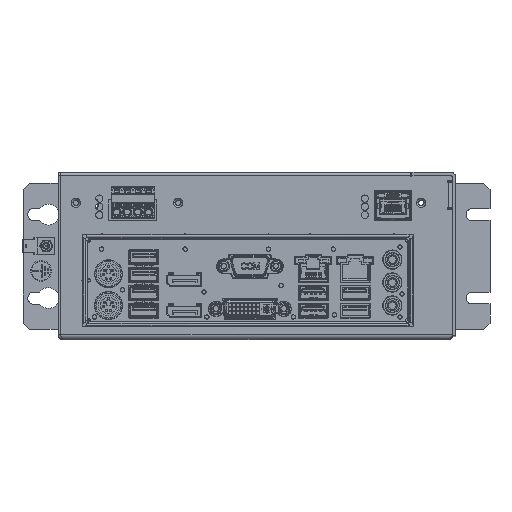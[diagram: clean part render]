
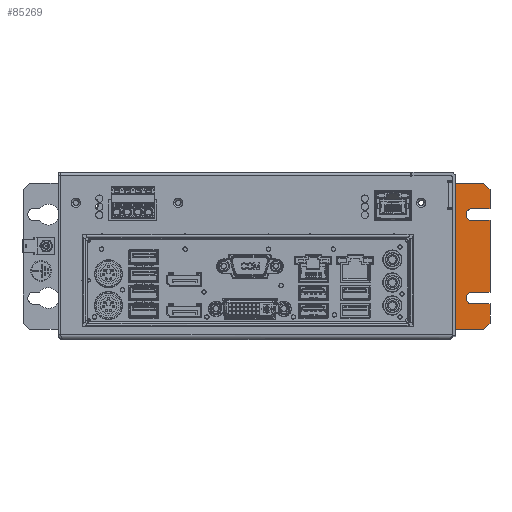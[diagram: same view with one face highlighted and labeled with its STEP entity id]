
A CAD part, top view. The second image highlights one B-rep face of the part: STEP entity #85269.
In plain terms, the highlighted planar face has unit normal (0, 0, 1) as drawn and (0, 0, -1) by its records, which use the part's own axes.
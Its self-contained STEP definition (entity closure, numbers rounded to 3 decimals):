
#1855 = CIRCLE ( 'NONE', #217967, 2.75 ) ;
#6509 = EDGE_CURVE ( 'NONE', #58605, #25625, #183485, .T. ) ;
#7474 = DIRECTION ( 'NONE',  ( 0., -1., 0. ) ) ;
#14514 = LINE ( 'NONE', #128709, #175871 ) ;
#14647 = EDGE_CURVE ( 'NONE', #23895, #226131, #182512, .T. ) ;
#15005 = CARTESIAN_POINT ( 'NONE',  ( 12.25, 0., 0. ) ) ;
#15141 = AXIS2_PLACEMENT_3D ( 'NONE', #32166, #90839, #226981 ) ;
#16215 = LINE ( 'NONE', #75208, #61845 ) ;
#17373 = VERTEX_POINT ( 'NONE', #61111 ) ;
#23241 = EDGE_LOOP ( 'NONE', ( #61537, #207327, #226794, #250914, #237651, #228288, #234697, #128878, #194594, #48348, #160374, #251406, #77786, #42815 ) ) ;
#23895 = VERTEX_POINT ( 'NONE', #247680 ) ;
#25625 = VERTEX_POINT ( 'NONE', #218150 ) ;
#28277 = VECTOR ( 'NONE', #90994, 1000. ) ;
#31785 = VECTOR ( 'NONE', #102831, 1000. ) ;
#32166 = CARTESIAN_POINT ( 'NONE',  ( 0., 18.3, 0. ) ) ;
#32338 = CARTESIAN_POINT ( 'NONE',  ( 70., 0., 0. ) ) ;
#36366 = EDGE_CURVE ( 'NONE', #226131, #163937, #83487, .T. ) ;
#40773 = EDGE_CURVE ( 'NONE', #25625, #129220, #229441, .T. ) ;
#42815 = ORIENTED_EDGE ( 'NONE', *, *, #107045, .F. ) ;
#48017 = CARTESIAN_POINT ( 'NONE',  ( 67., 0., 0. ) ) ;
#48348 = ORIENTED_EDGE ( 'NONE', *, *, #175073, .F. ) ;
#50095 = CARTESIAN_POINT ( 'NONE',  ( 57.75, 8.7, 0. ) ) ;
#58605 = VERTEX_POINT ( 'NONE', #208041 ) ;
#59778 = CARTESIAN_POINT ( 'NONE',  ( 52.25, 0., 0. ) ) ;
#61111 = CARTESIAN_POINT ( 'NONE',  ( 0., 3., 0. ) ) ;
#61537 = ORIENTED_EDGE ( 'NONE', *, *, #177456, .T. ) ;
#61845 = VECTOR ( 'NONE', #209660, 1000. ) ;
#62707 = VECTOR ( 'NONE', #233927, 1000. ) ;
#63396 = DIRECTION ( 'NONE',  ( 1., 0., 0. ) ) ;
#63674 = LINE ( 'NONE', #59778, #212885 ) ;
#75208 = CARTESIAN_POINT ( 'NONE',  ( -7.65, 10.65, 0. ) ) ;
#77786 = ORIENTED_EDGE ( 'NONE', *, *, #108702, .T. ) ;
#78992 = LINE ( 'NONE', #219127, #176341 ) ;
#79380 = DIRECTION ( 'NONE',  ( 0., -1., 0. ) ) ;
#83487 = LINE ( 'NONE', #238996, #31785 ) ;
#84272 = EDGE_CURVE ( 'NONE', #206756, #17373, #16215, .T. ) ;
#85269 = ADVANCED_FACE ( 'NONE', ( #134106 ), #226164, .T. ) ;
#88507 = EDGE_CURVE ( 'NONE', #58605, #188649, #116527, .T. ) ;
#90839 = DIRECTION ( 'NONE',  ( 0., 0., -1. ) ) ;
#90994 = DIRECTION ( 'NONE',  ( 0., 1., 0. ) ) ;
#92440 = AXIS2_PLACEMENT_3D ( 'NONE', #229681, #113100, #249228 ) ;
#97090 = EDGE_CURVE ( 'NONE', #239811, #147324, #124467, .T. ) ;
#101769 = VECTOR ( 'NONE', #235037, 1000. ) ;
#102831 = DIRECTION ( 'NONE',  ( 0., -1., 0. ) ) ;
#107045 = EDGE_CURVE ( 'NONE', #111921, #118647, #14514, .T. ) ;
#107874 = LINE ( 'NONE', #215433, #101769 ) ;
#108702 = EDGE_CURVE ( 'NONE', #202122, #118647, #63674, .T. ) ;
#108726 = CARTESIAN_POINT ( 'NONE',  ( 55., 8.7, 0. ) ) ;
#111921 = VERTEX_POINT ( 'NONE', #146350 ) ;
#113100 = DIRECTION ( 'NONE',  ( 0., 0., 1. ) ) ;
#114475 = LINE ( 'NONE', #214358, #62707 ) ;
#114811 = EDGE_CURVE ( 'NONE', #206756, #163937, #78992, .T. ) ;
#115259 = LINE ( 'NONE', #123957, #154825 ) ;
#116527 = LINE ( 'NONE', #192057, #213943 ) ;
#118647 = VERTEX_POINT ( 'NONE', #196020 ) ;
#123957 = CARTESIAN_POINT ( 'NONE',  ( 0., 0., 0. ) ) ;
#124467 = LINE ( 'NONE', #50095, #130584 ) ;
#126978 = CARTESIAN_POINT ( 'NONE',  ( 52.25, 8.7, 0. ) ) ;
#128309 = DIRECTION ( 'NONE',  ( 1., 0., 0. ) ) ;
#128709 = CARTESIAN_POINT ( 'NONE',  ( 0., 0., 0. ) ) ;
#128878 = ORIENTED_EDGE ( 'NONE', *, *, #6509, .F. ) ;
#129220 = VERTEX_POINT ( 'NONE', #134436 ) ;
#129531 = DIRECTION ( 'NONE',  ( 1., 0., 0. ) ) ;
#129666 = EDGE_CURVE ( 'NONE', #147324, #202122, #1855, .T. ) ;
#130584 = VECTOR ( 'NONE', #186154, 1000. ) ;
#132113 = CARTESIAN_POINT ( 'NONE',  ( 12.25, 8.7, 0. ) ) ;
#134106 = FACE_OUTER_BOUND ( 'NONE', #23241, .T. ) ;
#134436 = CARTESIAN_POINT ( 'NONE',  ( 0., 18.153, 0. ) ) ;
#146350 = CARTESIAN_POINT ( 'NONE',  ( 17.75, 0., 0. ) ) ;
#147324 = VERTEX_POINT ( 'NONE', #202079 ) ;
#154825 = VECTOR ( 'NONE', #7474, 1000. ) ;
#160374 = ORIENTED_EDGE ( 'NONE', *, *, #97090, .T. ) ;
#163670 = EDGE_CURVE ( 'NONE', #129220, #17373, #115259, .T. ) ;
#163937 = VERTEX_POINT ( 'NONE', #15005 ) ;
#175073 = EDGE_CURVE ( 'NONE', #239811, #188649, #107874, .T. ) ;
#175871 = VECTOR ( 'NONE', #129531, 1000. ) ;
#176341 = VECTOR ( 'NONE', #63396, 1000. ) ;
#176935 = CARTESIAN_POINT ( 'NONE',  ( 70., 18.153, 0. ) ) ;
#177456 = EDGE_CURVE ( 'NONE', #111921, #23895, #114475, .T. ) ;
#182512 = CIRCLE ( 'NONE', #92440, 2.75 ) ;
#183485 = LINE ( 'NONE', #32338, #28277 ) ;
#186154 = DIRECTION ( 'NONE',  ( 0., 1., 0. ) ) ;
#188649 = VERTEX_POINT ( 'NONE', #48017 ) ;
#192057 = CARTESIAN_POINT ( 'NONE',  ( 42.65, -24.35, 0. ) ) ;
#194594 = ORIENTED_EDGE ( 'NONE', *, *, #88507, .T. ) ;
#196020 = CARTESIAN_POINT ( 'NONE',  ( 52.25, 0., 0. ) ) ;
#196518 = DIRECTION ( 'NONE',  ( -1., 0., 0. ) ) ;
#199199 = CARTESIAN_POINT ( 'NONE',  ( 3., 0., 0. ) ) ;
#202079 = CARTESIAN_POINT ( 'NONE',  ( 57.75, 8.7, 0. ) ) ;
#202122 = VERTEX_POINT ( 'NONE', #126978 ) ;
#206756 = VERTEX_POINT ( 'NONE', #199199 ) ;
#207327 = ORIENTED_EDGE ( 'NONE', *, *, #14647, .T. ) ;
#208041 = CARTESIAN_POINT ( 'NONE',  ( 70., 3., 0. ) ) ;
#209660 = DIRECTION ( 'NONE',  ( -0.707, 0.707, 0. ) ) ;
#211664 = DIRECTION ( 'NONE',  ( -0.707, -0.707, 0. ) ) ;
#212885 = VECTOR ( 'NONE', #79380, 1000. ) ;
#213943 = VECTOR ( 'NONE', #211664, 1000. ) ;
#214358 = CARTESIAN_POINT ( 'NONE',  ( 17.75, 8.7, 0. ) ) ;
#215433 = CARTESIAN_POINT ( 'NONE',  ( 0., 0., 0. ) ) ;
#217967 = AXIS2_PLACEMENT_3D ( 'NONE', #108726, #244925, #128309 ) ;
#218150 = CARTESIAN_POINT ( 'NONE',  ( 70., 18.153, 0. ) ) ;
#219127 = CARTESIAN_POINT ( 'NONE',  ( 0., 0., 0. ) ) ;
#223314 = VECTOR ( 'NONE', #196518, 1000. ) ;
#226131 = VERTEX_POINT ( 'NONE', #132113 ) ;
#226164 = PLANE ( 'NONE',  #15141 ) ;
#226634 = CARTESIAN_POINT ( 'NONE',  ( 57.75, 0., 0. ) ) ;
#226794 = ORIENTED_EDGE ( 'NONE', *, *, #36366, .T. ) ;
#226981 = DIRECTION ( 'NONE',  ( -1., 0., 0. ) ) ;
#228288 = ORIENTED_EDGE ( 'NONE', *, *, #163670, .F. ) ;
#229441 = LINE ( 'NONE', #176935, #223314 ) ;
#229681 = CARTESIAN_POINT ( 'NONE',  ( 15., 8.7, 0. ) ) ;
#233927 = DIRECTION ( 'NONE',  ( 0., 1., 0. ) ) ;
#234697 = ORIENTED_EDGE ( 'NONE', *, *, #40773, .F. ) ;
#235037 = DIRECTION ( 'NONE',  ( 1., 0., 0. ) ) ;
#237651 = ORIENTED_EDGE ( 'NONE', *, *, #84272, .T. ) ;
#238996 = CARTESIAN_POINT ( 'NONE',  ( 12.25, 0., 0. ) ) ;
#239811 = VERTEX_POINT ( 'NONE', #226634 ) ;
#244925 = DIRECTION ( 'NONE',  ( 0., 0., 1. ) ) ;
#247680 = CARTESIAN_POINT ( 'NONE',  ( 17.75, 8.7, 0. ) ) ;
#249228 = DIRECTION ( 'NONE',  ( 1., 0., 0. ) ) ;
#250914 = ORIENTED_EDGE ( 'NONE', *, *, #114811, .F. ) ;
#251406 = ORIENTED_EDGE ( 'NONE', *, *, #129666, .T. ) ;
